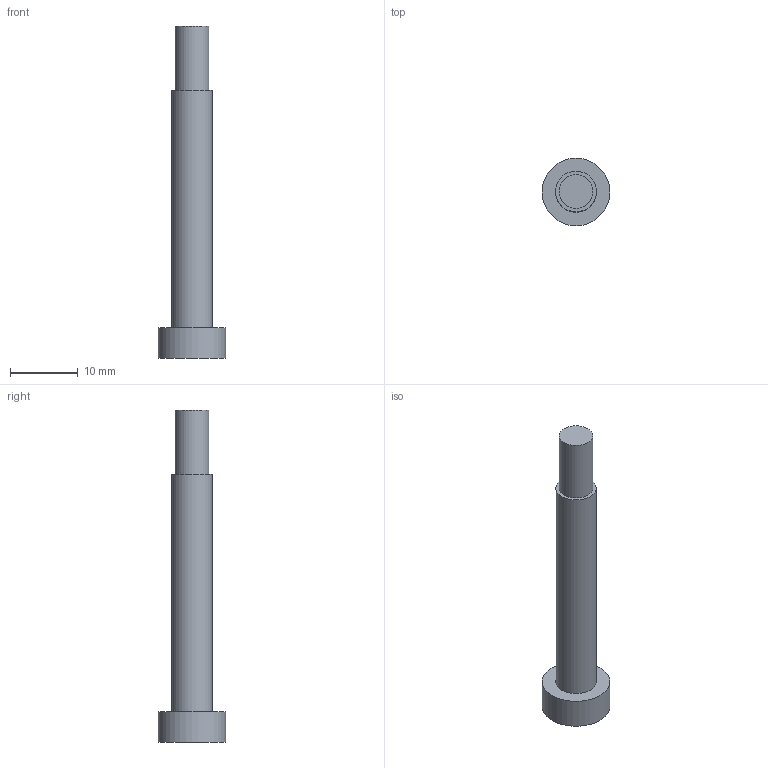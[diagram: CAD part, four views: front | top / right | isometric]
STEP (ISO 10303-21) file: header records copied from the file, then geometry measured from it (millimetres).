
FILE_DESCRIPTION(('Open CASCADE Model'),'2;1');
FILE_NAME('Open CASCADE Shape Model','2026-11-14T12:26:42',('Author'),( 'Open CASCADE'),'Open CASCADE STEP processor 8.0','Open CASCADE 8.0' ,'Unknown');
FILE_SCHEMA(('AUTOMOTIVE_DESIGN { 1 0 10303 214 1 1 1 1 }'));
Length unit declared in the file: millimetre
Products named in the file (1): Open CASCADE STEP translator 8.0 1
Bounding box: 10 x 10 x 49 mm (x, y, z)
Volume: 1506.8 mm3; surface area: 1137.8 mm2
Topology: 1 solids, 1 shells, 14 faces, 27 edges, 18 vertices
Faces by surface type: plane 11, cylinder 3
Full cylindrical faces by diameter (mm): 5 x1, 6 x1, 10 x1
Entity records: 718 total; most frequent: DIRECTION 117, CARTESIAN_POINT 114, LINE 69, VECTOR 69, ORIENTED_EDGE 54, PCURVE 54, DEFINITIONAL_REPRESENTATION 54, EDGE_CURVE 27
